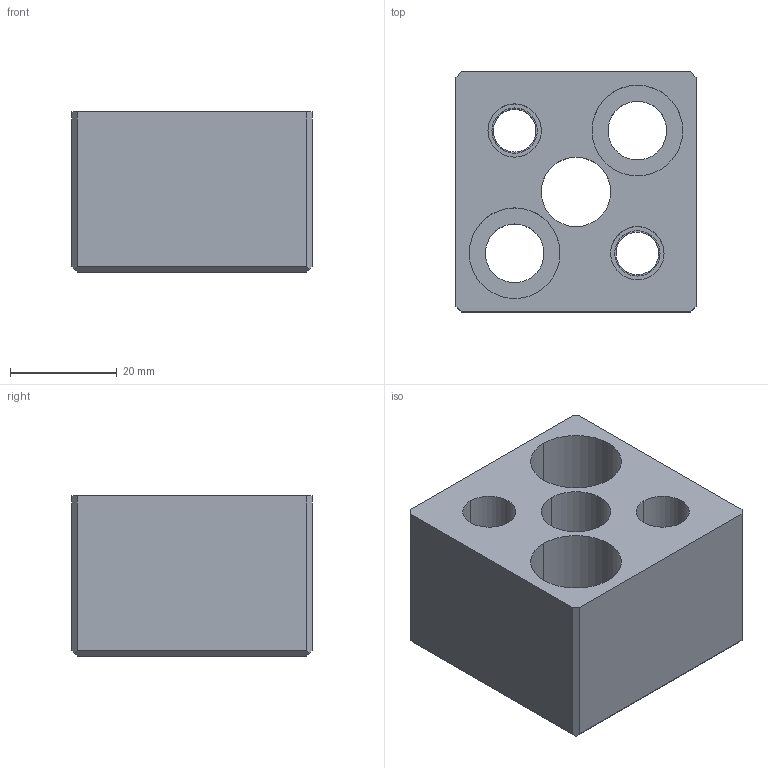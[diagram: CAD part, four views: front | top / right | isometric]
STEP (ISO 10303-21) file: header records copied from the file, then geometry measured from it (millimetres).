
FILE_DESCRIPTION(/* description */ (''),/* implementation_level */ '2;1');
FILE_NAME(/* name */ '3d_sr-an13_05470_r00.stp',/* time_stamp */ '2011-01-10T14:10:00+09:00',/* author */ ('MISUMI'),/* organization */ (''),/* preprocessor_version */ 'ST-DEVELOPER v11',/* originating_system */ 'UGS - NX 5.0',/* authorisation */ '');
FILE_SCHEMA (('CONFIG_CONTROL_DESIGN'));
Length unit declared in the file: millimetre
Products named in the file (1): 3d_sr-an13_05470_r00
Bounding box: 45 x 45 x 30 mm (x, y, z)
Volume: 43412.7 mm3; surface area: 13931.4 mm2
Topology: 1 solids, 1 shells, 47 faces, 112 edges, 74 vertices
Faces by surface type: cylinder 24, plane 21, cone 2
Entity records: 1486 total; most frequent: DIRECTION 258, CARTESIAN_POINT 234, ORIENTED_EDGE 224, EDGE_CURVE 112, AXIS2_PLACEMENT_3D 98, VERTEX_POINT 74, EDGE_LOOP 64, LINE 62
